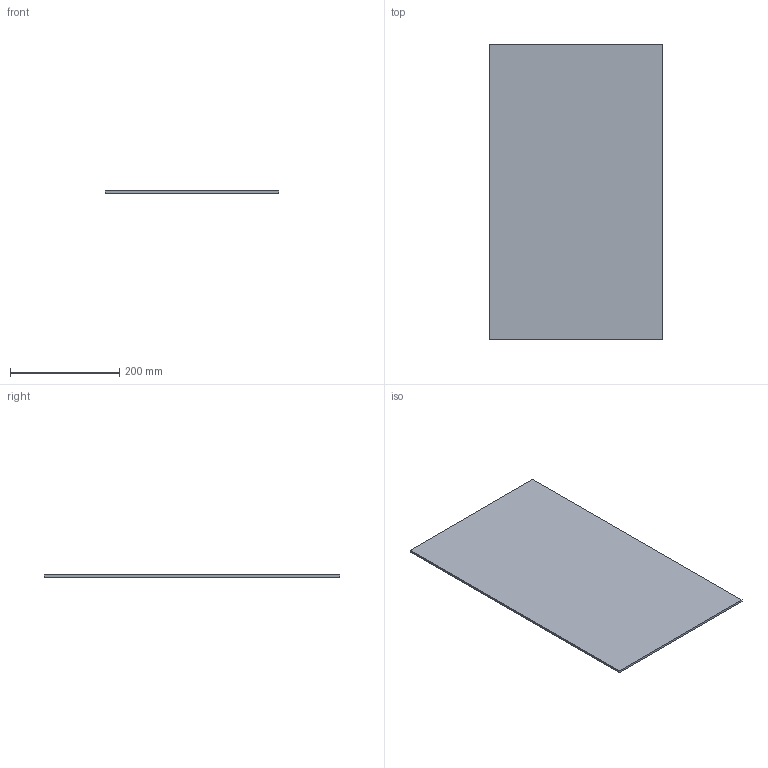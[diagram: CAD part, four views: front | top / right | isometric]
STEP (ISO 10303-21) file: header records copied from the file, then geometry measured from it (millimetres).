
FILE_DESCRIPTION(/* description */ (''),/* implementation_level */ '2;1');
FILE_NAME(/* name */ 'acrylic.step',/* time_stamp */ '2026-06-27T03:52:12+02:00',/* author */ (''),/* organization */ (''),/* preprocessor_version */ 'ST-DEVELOPER v20.1',/* originating_system */ 'Autodesk Translation Framework v15.8.0.0',/* authorisation */ '');
FILE_SCHEMA (('AUTOMOTIVE_DESIGN { 1 0 10303 214 3 1 1 }'));
Length unit declared in the file: millimetre
Products named in the file (2): 2026-06-27-03-52-12-105; 2026-06-27-03-52-12-105_1
Assembly tree (1 placements, depth 2):
  2026-06-27-03-52-12-105
    2026-06-27-03-52-12-105_1
Bounding box: 319.13 x 542.29 x 4 mm (x, y, z)
Volume: 692244.1 mm3; surface area: 353013.4 mm2
Topology: 1 solids, 1 shells, 6 faces, 12 edges, 8 vertices
Faces by surface type: plane 6
Entity records: 216 total; most frequent: DIRECTION 30, CARTESIAN_POINT 29, ORIENTED_EDGE 24, LINE 12, VECTOR 12, EDGE_CURVE 12, AXIS2_PLACEMENT_3D 9, VERTEX_POINT 8
